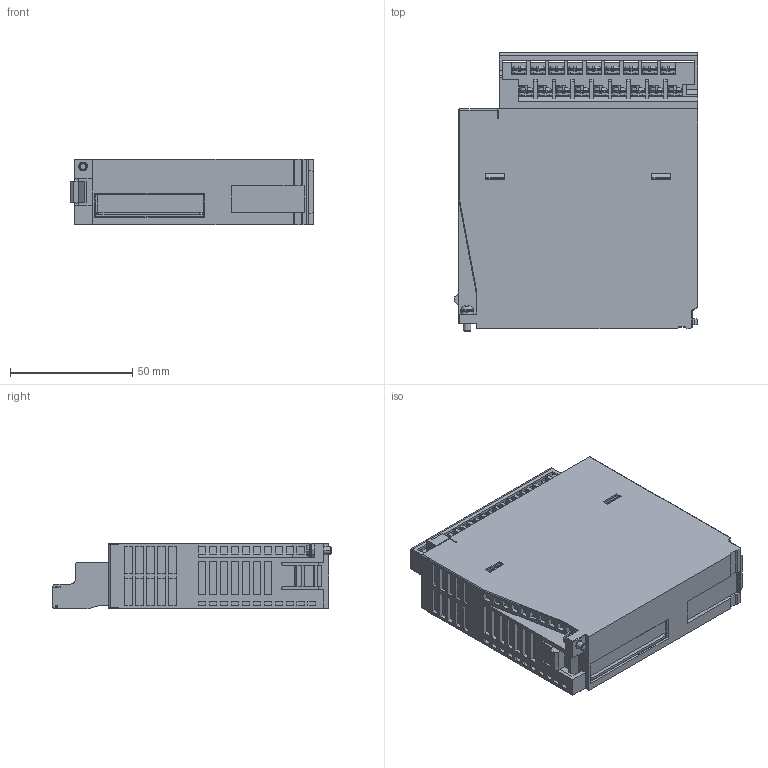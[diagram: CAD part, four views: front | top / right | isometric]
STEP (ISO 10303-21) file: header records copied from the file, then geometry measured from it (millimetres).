
FILE_DESCRIPTION((''),'2;1');
FILE_NAME('00_XGF-AD8A_ASM_SW0001','2019-07-19T',('ssuin'),(''),'CREO PARAMETRIC BY PTC INC, 2015380','CREO PARAMETRIC BY PTC INC, 2015380','');
FILE_SCHEMA(('CONFIG_CONTROL_DESIGN'));
Products named in the file (1): 00_XGF-AD8A_ASM_SW0001
Bounding box: 99.8 x 114 x 27 mm (x, y, z)
Volume: 243233 mm3; surface area: 58095.1 mm2
Topology: 1 solids, 19 shells, 5495 faces, 15822 edges, 10232 vertices
Faces by surface type: plane 4263, cylinder 726, cone 408, torus 74, bspline 14, sphere 10
Entity records: 187308 total; most frequent: CARTESIAN_POINT 44275, ORIENTED_EDGE 31624, DIRECTION 27129, EDGE_CURVE 15812, VECTOR 12535, LINE 12535, VERTEX_POINT 10234, AXIS2_PLACEMENT_3D 7297
